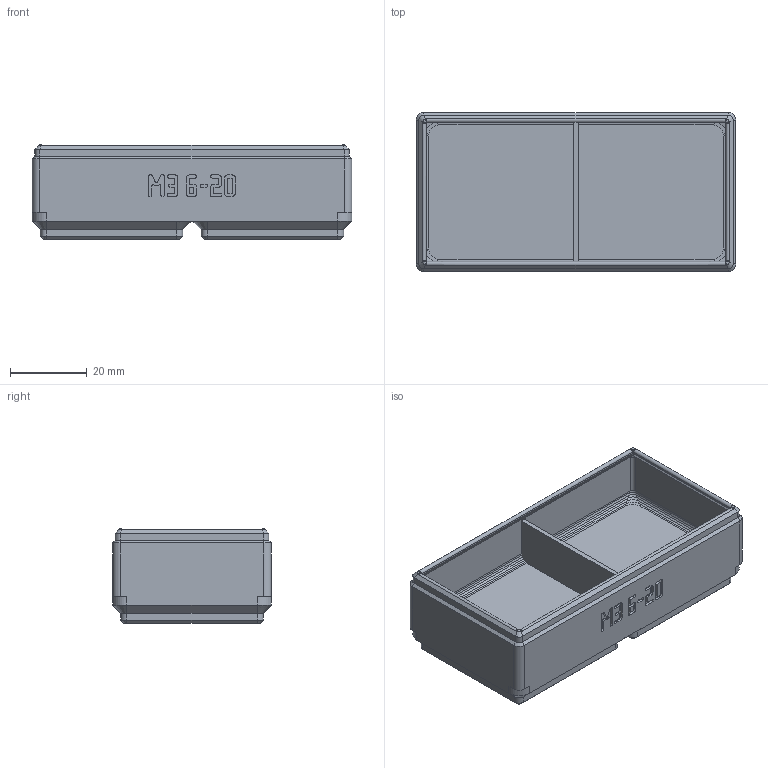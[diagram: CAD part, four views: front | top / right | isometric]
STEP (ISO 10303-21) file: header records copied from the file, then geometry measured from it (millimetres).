
FILE_DESCRIPTION(('Open CASCADE Model'),'2;1');
FILE_NAME('Open CASCADE Shape Model','2026-11-03T14:04:41',('Author'),( 'Open CASCADE'),'Open CASCADE STEP processor 8.0','build123d', 'Unknown');
FILE_SCHEMA(('AUTOMOTIVE_DESIGN { 1 0 10303 214 1 1 1 1 }'));
Products named in the file (1): SOLID
Bounding box: 83.5 x 41.5 x 24.7 mm (x, y, z)
Volume: 25322.2 mm3; surface area: 24281.8 mm2
Topology: 1 solids, 1 shells, 812 faces, 2238 edges, 1436 vertices
Faces by surface type: plane 652, bspline 104, cylinder 36, cone 20
Entity records: 58228 total; most frequent: CARTESIAN_POINT 14661, DIRECTION 7562, LINE 5888, VECTOR 5888, ORIENTED_EDGE 4476, PCURVE 4476, DEFINITIONAL_REPRESENTATION 4476, EDGE_CURVE 2238
